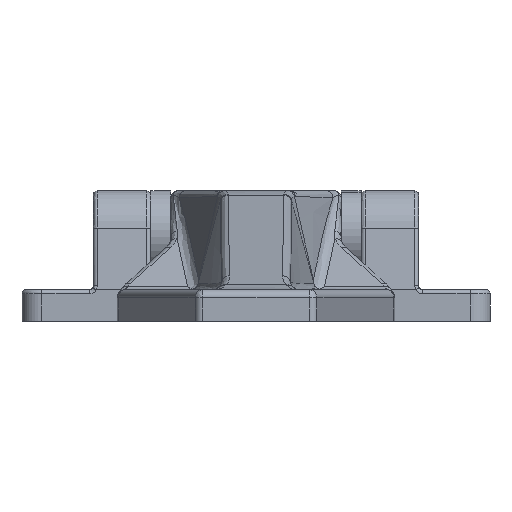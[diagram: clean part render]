
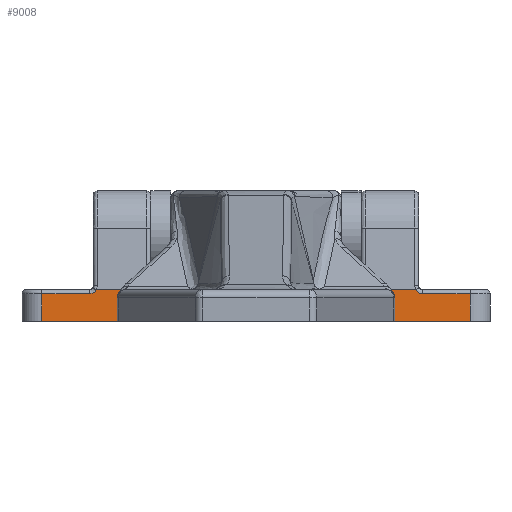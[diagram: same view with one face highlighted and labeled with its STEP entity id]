
A CAD part, front view. The second image highlights one B-rep face of the part: STEP entity #9008.
In plain terms, the highlighted planar face has unit normal (0, -1, 0).
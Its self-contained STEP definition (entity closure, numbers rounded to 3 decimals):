
#892 = CARTESIAN_POINT ( 'NONE',  ( -54.174, 0., 7. ) ) ;
#970 = CARTESIAN_POINT ( 'NONE',  ( 26.848, 0., 7.356 ) ) ;
#1510 = LINE ( 'NONE', #22563, #41481 ) ;
#2201 = EDGE_CURVE ( 'NONE', #29044, #46727, #44886, .T. ) ;
#2483 = CARTESIAN_POINT ( 'NONE',  ( 42., 0., 7. ) ) ;
#3816 = CARTESIAN_POINT ( 'NONE',  ( -59., 0., 8. ) ) ;
#4522 = LINE ( 'NONE', #34195, #5700 ) ;
#4654 = DIRECTION ( 'NONE',  ( 1., 0., 0. ) ) ;
#5277 = CARTESIAN_POINT ( 'NONE',  ( -42., 0., 7. ) ) ;
#5700 = VECTOR ( 'NONE', #23056, 1000. ) ;
#6133 = ORIENTED_EDGE ( 'NONE', *, *, #21176, .F. ) ;
#6486 = ORIENTED_EDGE ( 'NONE', *, *, #39805, .F. ) ;
#6682 = EDGE_CURVE ( 'NONE', #23102, #34962, #45281, .T. ) ;
#7060 = LINE ( 'NONE', #19466, #35882 ) ;
#7283 = CARTESIAN_POINT ( 'NONE',  ( -27.217, 0., 7.975 ) ) ;
#7732 = CARTESIAN_POINT ( 'NONE',  ( 40.283, 0., 7.975 ) ) ;
#8281 = DIRECTION ( 'NONE',  ( 1., 0., 0. ) ) ;
#8417 = CARTESIAN_POINT ( 'NONE',  ( -54., 0., 0. ) ) ;
#8914 =( BOUNDED_CURVE ( )  B_SPLINE_CURVE ( 3, ( #7732, #33830, #15108, #33995 ),
 .UNSPECIFIED., .F., .T. ) 
 B_SPLINE_CURVE_WITH_KNOTS ( ( 4, 4 ),
 ( 0., 1. ),
 .UNSPECIFIED. ) 
 CURVE ( )  GEOMETRIC_REPRESENTATION_ITEM ( )  RATIONAL_B_SPLINE_CURVE ( ( 1., 0.913, 0.913, 1. ) ) 
 REPRESENTATION_ITEM ( '' )  );
#9008 = ADVANCED_FACE ( 'NONE', ( #16957 ), #26827, .F. ) ;
#9100 = EDGE_CURVE ( 'NONE', #11175, #22537, #30187, .T. ) ;
#9249 = CARTESIAN_POINT ( 'NONE',  ( -54., 0., 8. ) ) ;
#9351 = ORIENTED_EDGE ( 'NONE', *, *, #43543, .F. ) ;
#11039 = CARTESIAN_POINT ( 'NONE',  ( -26.848, 0., 7.356 ) ) ;
#11175 = VERTEX_POINT ( 'NONE', #8417 ) ;
#11818 = VERTEX_POINT ( 'NONE', #41977 ) ;
#11830 = ORIENTED_EDGE ( 'NONE', *, *, #22608, .F. ) ;
#11921 = AXIS2_PLACEMENT_3D ( 'NONE', #3816, #30049, #38506 ) ;
#12928 = CARTESIAN_POINT ( 'NONE',  ( 54., 0., 0. ) ) ;
#13478 = VECTOR ( 'NONE', #44494, 1000. ) ;
#13956 = EDGE_CURVE ( 'NONE', #48538, #11175, #15882, .T. ) ;
#14220 = VECTOR ( 'NONE', #20743, 1000. ) ;
#15108 = CARTESIAN_POINT ( 'NONE',  ( 41.279, 0., 7. ) ) ;
#15882 = LINE ( 'NONE', #48297, #13478 ) ;
#15891 = ORIENTED_EDGE ( 'NONE', *, *, #43102, .F. ) ;
#15968 = CARTESIAN_POINT ( 'NONE',  ( 25.5, 0., 7. ) ) ;
#16071 = ORIENTED_EDGE ( 'NONE', *, *, #13956, .F. ) ;
#16370 = CARTESIAN_POINT ( 'NONE',  ( -25.5, 0., 7. ) ) ;
#16405 = CARTESIAN_POINT ( 'NONE',  ( 40.283, 0., 7.975 ) ) ;
#16957 = FACE_OUTER_BOUND ( 'NONE', #37795, .T. ) ;
#18517 = CARTESIAN_POINT ( 'NONE',  ( -54.174, 0., 7. ) ) ;
#18717 = EDGE_CURVE ( 'NONE', #22537, #31153, #24230, .T. ) ;
#19092 = CARTESIAN_POINT ( 'NONE',  ( -54., 0., 7. ) ) ;
#19466 = CARTESIAN_POINT ( 'NONE',  ( 27.217, 0., 7.975 ) ) ;
#20056 = CARTESIAN_POINT ( 'NONE',  ( -40.283, 0., 7.975 ) ) ;
#20226 = VECTOR ( 'NONE', #31765, 1000. ) ;
#20743 = DIRECTION ( 'NONE',  ( 1., 0., 0. ) ) ;
#21176 = EDGE_CURVE ( 'NONE', #24748, #39219, #7060, .T. ) ;
#22287 = DIRECTION ( 'NONE',  ( 1., 0., 0. ) ) ;
#22419 = CARTESIAN_POINT ( 'NONE',  ( -25.5, 0., 7. ) ) ;
#22444 = CARTESIAN_POINT ( 'NONE',  ( -40.283, 0., 7.975 ) ) ;
#22483 = EDGE_CURVE ( 'NONE', #39219, #29044, #8914, .T. ) ;
#22537 = VERTEX_POINT ( 'NONE', #19092 ) ;
#22563 = CARTESIAN_POINT ( 'NONE',  ( 54., 0., 8. ) ) ;
#22608 = EDGE_CURVE ( 'NONE', #34962, #24748, #29748, .T. ) ;
#23056 = DIRECTION ( 'NONE',  ( 1., 0., 0. ) ) ;
#23102 = VERTEX_POINT ( 'NONE', #16370 ) ;
#23179 = ORIENTED_EDGE ( 'NONE', *, *, #6682, .F. ) ;
#23515 = CARTESIAN_POINT ( 'NONE',  ( 26.221, 0., 7. ) ) ;
#23662 = CARTESIAN_POINT ( 'NONE',  ( -42., 0., 7. ) ) ;
#24230 = LINE ( 'NONE', #36170, #14220 ) ;
#24609 = ORIENTED_EDGE ( 'NONE', *, *, #41798, .F. ) ;
#24748 = VERTEX_POINT ( 'NONE', #43046 ) ;
#25026 = CARTESIAN_POINT ( 'NONE',  ( 54., 0., 7. ) ) ;
#25263 = VECTOR ( 'NONE', #22287, 1000. ) ;
#26064 =( BOUNDED_CURVE ( )  B_SPLINE_CURVE ( 3, ( #7283, #11039, #44900, #22419 ),
 .UNSPECIFIED., .F., .F. ) 
 B_SPLINE_CURVE_WITH_KNOTS ( ( 4, 4 ),
 ( 0., 1. ),
 .UNSPECIFIED. ) 
 CURVE ( )  GEOMETRIC_REPRESENTATION_ITEM ( )  RATIONAL_B_SPLINE_CURVE ( ( 1., 0.913, 0.913, 1. ) ) 
 REPRESENTATION_ITEM ( '' )  );
#26827 = PLANE ( 'NONE',  #11921 ) ;
#27262 = CARTESIAN_POINT ( 'NONE',  ( 27.217, 0., 7.975 ) ) ;
#27397 = CARTESIAN_POINT ( 'NONE',  ( -41.279, 0., 7. ) ) ;
#29044 = VERTEX_POINT ( 'NONE', #2483 ) ;
#29748 =( BOUNDED_CURVE ( )  B_SPLINE_CURVE ( 3, ( #15968, #23515, #970, #27262 ),
 .UNSPECIFIED., .F., .T. ) 
 B_SPLINE_CURVE_WITH_KNOTS ( ( 4, 4 ),
 ( 0., 1. ),
 .UNSPECIFIED. ) 
 CURVE ( )  GEOMETRIC_REPRESENTATION_ITEM ( )  RATIONAL_B_SPLINE_CURVE ( ( 1., 0.913, 0.913, 1. ) ) 
 REPRESENTATION_ITEM ( '' )  );
#29891 = ORIENTED_EDGE ( 'NONE', *, *, #9100, .F. ) ;
#30049 = DIRECTION ( 'NONE',  ( 0., 1., 0. ) ) ;
#30187 = LINE ( 'NONE', #9249, #20226 ) ;
#30515 = CARTESIAN_POINT ( 'NONE',  ( 25.5, 0., 7. ) ) ;
#31153 = VERTEX_POINT ( 'NONE', #5277 ) ;
#31765 = DIRECTION ( 'NONE',  ( 0., 0., 1. ) ) ;
#33830 = CARTESIAN_POINT ( 'NONE',  ( 40.652, 0., 7.356 ) ) ;
#33995 = CARTESIAN_POINT ( 'NONE',  ( 42., 0., 7. ) ) ;
#34195 = CARTESIAN_POINT ( 'NONE',  ( -40.283, 0., 7.975 ) ) ;
#34962 = VERTEX_POINT ( 'NONE', #30515 ) ;
#35814 = VERTEX_POINT ( 'NONE', #22444 ) ;
#35882 = VECTOR ( 'NONE', #8281, 1000. ) ;
#36170 = CARTESIAN_POINT ( 'NONE',  ( -54.174, 0., 7. ) ) ;
#36296 = ORIENTED_EDGE ( 'NONE', *, *, #18717, .F. ) ;
#37795 = EDGE_LOOP ( 'NONE', ( #29891, #16071, #24609, #40089, #39326, #6133, #11830, #23179, #15891, #6486, #9351, #36296 ) ) ;
#38506 = DIRECTION ( 'NONE',  ( 0., 0., 1. ) ) ;
#39219 = VERTEX_POINT ( 'NONE', #16405 ) ;
#39326 = ORIENTED_EDGE ( 'NONE', *, *, #22483, .F. ) ;
#39805 = EDGE_CURVE ( 'NONE', #35814, #11818, #4522, .T. ) ;
#40089 = ORIENTED_EDGE ( 'NONE', *, *, #2201, .F. ) ;
#41481 = VECTOR ( 'NONE', #45050, 1000. ) ;
#41798 = EDGE_CURVE ( 'NONE', #46727, #48538, #1510, .T. ) ;
#41977 = CARTESIAN_POINT ( 'NONE',  ( -27.217, 0., 7.975 ) ) ;
#42505 = CARTESIAN_POINT ( 'NONE',  ( -40.652, 0., 7.356 ) ) ;
#43046 = CARTESIAN_POINT ( 'NONE',  ( 27.217, 0., 7.975 ) ) ;
#43102 = EDGE_CURVE ( 'NONE', #11818, #23102, #26064, .T. ) ;
#43543 = EDGE_CURVE ( 'NONE', #31153, #35814, #48640, .T. ) ;
#43699 = VECTOR ( 'NONE', #4654, 1000. ) ;
#44494 = DIRECTION ( 'NONE',  ( -1., 0., 0. ) ) ;
#44886 = LINE ( 'NONE', #892, #43699 ) ;
#44900 = CARTESIAN_POINT ( 'NONE',  ( -26.221, 0., 7. ) ) ;
#45050 = DIRECTION ( 'NONE',  ( 0., 0., -1. ) ) ;
#45281 = LINE ( 'NONE', #18517, #25263 ) ;
#46727 = VERTEX_POINT ( 'NONE', #25026 ) ;
#48297 = CARTESIAN_POINT ( 'NONE',  ( -59., 0., 0. ) ) ;
#48538 = VERTEX_POINT ( 'NONE', #12928 ) ;
#48640 =( BOUNDED_CURVE ( )  B_SPLINE_CURVE ( 3, ( #23662, #27397, #42505, #20056 ),
 .UNSPECIFIED., .F., .F. ) 
 B_SPLINE_CURVE_WITH_KNOTS ( ( 4, 4 ),
 ( 0., 1. ),
 .UNSPECIFIED. ) 
 CURVE ( )  GEOMETRIC_REPRESENTATION_ITEM ( )  RATIONAL_B_SPLINE_CURVE ( ( 1., 0.913, 0.913, 1. ) ) 
 REPRESENTATION_ITEM ( '' )  );
